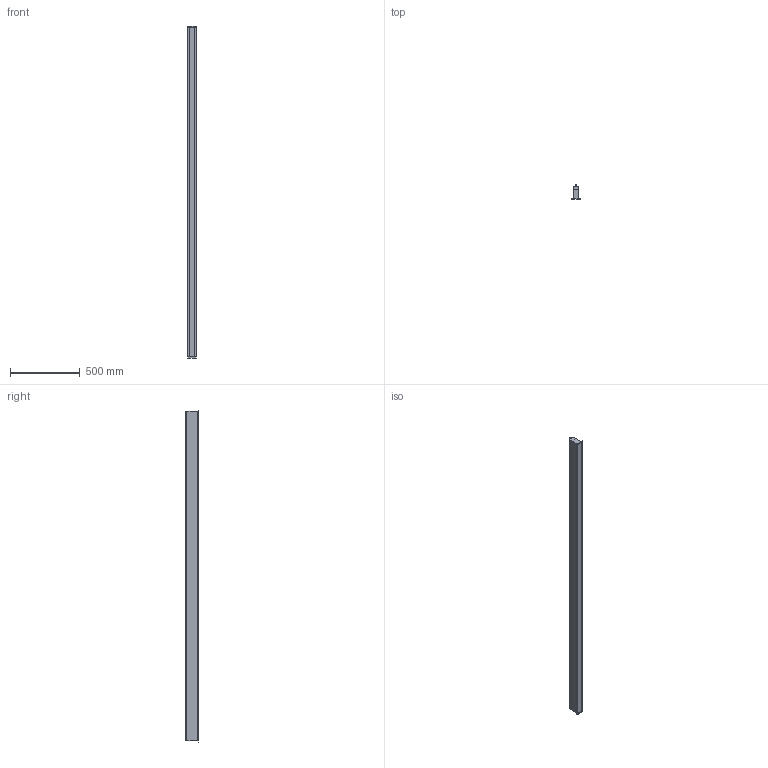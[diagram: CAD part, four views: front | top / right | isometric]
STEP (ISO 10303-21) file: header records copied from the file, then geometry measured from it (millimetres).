
FILE_DESCRIPTION(/* description */ (''),/* implementation_level */ '2;1');
FILE_NAME(/* name */ 'D:\_SHARED\_PROGETTI IN CORSO\Artemide\3D Semplificati\Algoritmo\ASM Semplificati\EXPORT MODELLI SEMPLIFICATI\14.ipt.stp',/* time_stamp */ '2018-02-23T06:07:36-08:00',/* author */ ('NEGRI'),/* organization */ (''),/* preprocessor_version */ 'ST-DEVELOPER v16.13',/* originating_system */ 'Autodesk Inventor 2018',/* authorisation */ '');
FILE_SCHEMA (('AUTOMOTIVE_DESIGN { 1 0 10303 214 3 1 1 }'));
Length unit declared in the file: metre
Products named in the file (1): 14.x_t
Bounding box: 60.4 x 98.4 x 2388.5 mm (x, y, z)
Volume: 3050251.1 mm3; surface area: 1678465.8 mm2
Topology: 7 solids, 7 shells, 114 faces, 300 edges, 200 vertices
Faces by surface type: plane 90, cylinder 24
Entity records: 3546 total; most frequent: CARTESIAN_POINT 615, ORIENTED_EDGE 600, DIRECTION 578, EDGE_CURVE 300, LINE 252, VECTOR 252, VERTEX_POINT 200, AXIS2_PLACEMENT_3D 163
